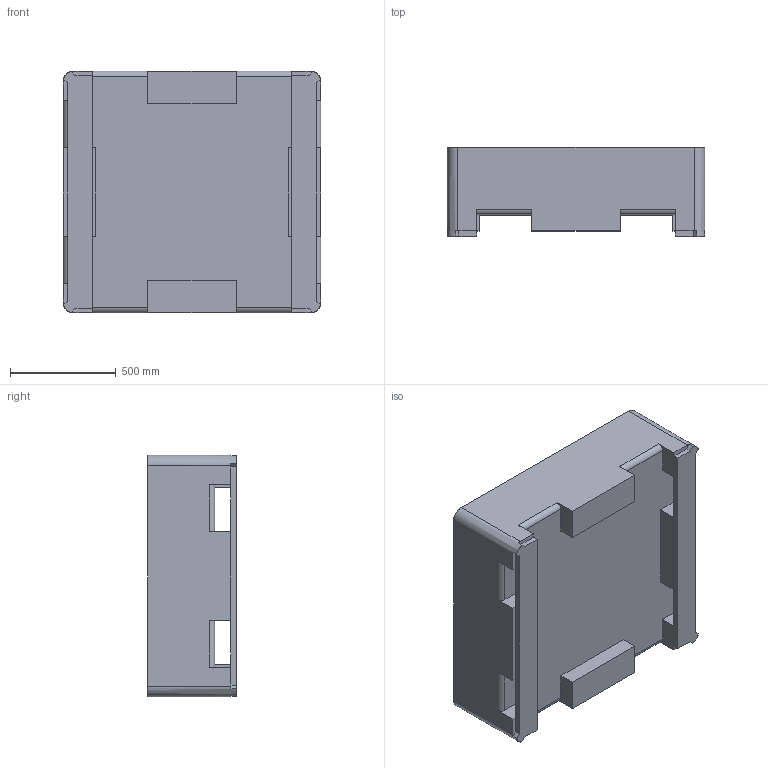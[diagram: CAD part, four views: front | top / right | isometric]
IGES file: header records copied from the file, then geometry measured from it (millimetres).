
Start section: SolidWorks IGES file using analytic representation for surfaces
Global section: file name: C:\Users\bconder\Documents\Production Models\MacroBins\12FV\12FV Block Model.IGS; native system: SolidWorks 2013; preprocessor: SolidWorks 2013; author: bconder; date: 130603.103643; units: inch
Bounding box: 1219.2 x 419.1 x 1143 mm (x, y, z)
Surface area: 6149675.3 mm2 (no closed solid volume)
Topology: 0 solids, 0 shells, 112 faces, 1100 edges, 1098 vertices
Faces by surface type: bspline 72, revolution 40
